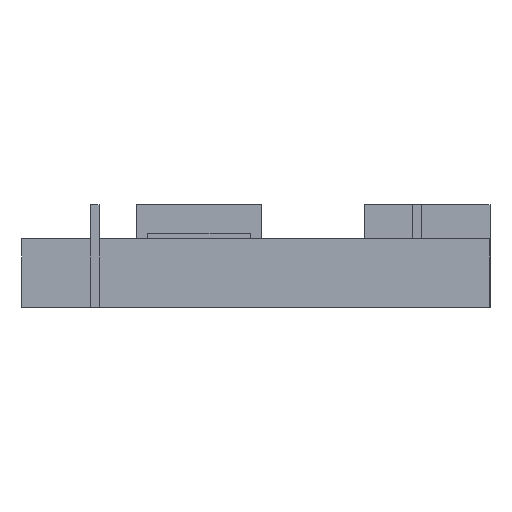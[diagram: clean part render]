
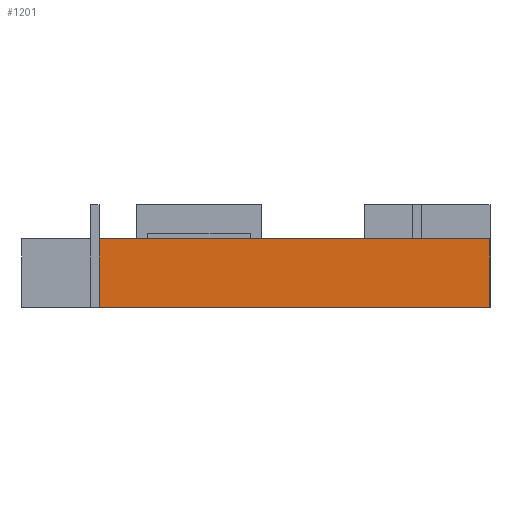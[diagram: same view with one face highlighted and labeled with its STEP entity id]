
A CAD part, left-side view. The second image highlights one B-rep face of the part: STEP entity #1201.
In plain terms, the highlighted planar face has unit normal (-1, 0, 0).
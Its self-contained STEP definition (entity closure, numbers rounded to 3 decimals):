
#74 = PLANE('',#75);
#75 = AXIS2_PLACEMENT_3D('',#76,#77,#78);
#76 = CARTESIAN_POINT('',(4.,82.,0.));
#77 = DIRECTION('',(0.,0.,1.));
#78 = DIRECTION('',(0.,-1.,0.));
#275 = VERTEX_POINT('',#276);
#276 = CARTESIAN_POINT('',(4.,68.5,0.));
#290 = PLANE('',#291);
#291 = AXIS2_PLACEMENT_3D('',#292,#293,#294);
#292 = CARTESIAN_POINT('',(0.,68.5,0.));
#293 = DIRECTION('',(0.,-1.,0.));
#294 = DIRECTION('',(1.,0.,0.));
#302 = EDGE_CURVE('',#275,#303,#305,.T.);
#303 = VERTEX_POINT('',#304);
#304 = CARTESIAN_POINT('',(4.,0.,0.));
#305 = SURFACE_CURVE('',#306,(#310,#317),.PCURVE_S1.);
#306 = LINE('',#307,#308);
#307 = CARTESIAN_POINT('',(4.,82.,0.));
#308 = VECTOR('',#309,1.);
#309 = DIRECTION('',(0.,-1.,0.));
#310 = PCURVE('',#74,#311);
#311 = DEFINITIONAL_REPRESENTATION('',(#312),#316);
#312 = LINE('',#313,#314);
#313 = CARTESIAN_POINT('',(0.,0.));
#314 = VECTOR('',#315,1.);
#315 = DIRECTION('',(1.,0.));
#316 = ( GEOMETRIC_REPRESENTATION_CONTEXT(2) 
PARAMETRIC_REPRESENTATION_CONTEXT() REPRESENTATION_CONTEXT('2D SPACE',''
  ) );
#317 = PCURVE('',#318,#323);
#318 = PLANE('',#319);
#319 = AXIS2_PLACEMENT_3D('',#320,#321,#322);
#320 = CARTESIAN_POINT('',(4.,82.,0.));
#321 = DIRECTION('',(1.,0.,0.));
#322 = DIRECTION('',(0.,-1.,0.));
#323 = DEFINITIONAL_REPRESENTATION('',(#324),#328);
#324 = LINE('',#325,#326);
#325 = CARTESIAN_POINT('',(0.,0.));
#326 = VECTOR('',#327,1.);
#327 = DIRECTION('',(1.,0.));
#328 = ( GEOMETRIC_REPRESENTATION_CONTEXT(2) 
PARAMETRIC_REPRESENTATION_CONTEXT() REPRESENTATION_CONTEXT('2D SPACE',''
  ) );
#346 = PLANE('',#347);
#347 = AXIS2_PLACEMENT_3D('',#348,#349,#350);
#348 = CARTESIAN_POINT('',(4.,0.,0.));
#349 = DIRECTION('',(0.,-1.,0.));
#350 = DIRECTION('',(1.,0.,0.));
#1003 = EDGE_CURVE('',#1004,#275,#1006,.T.);
#1004 = VERTEX_POINT('',#1005);
#1005 = CARTESIAN_POINT('',(4.,68.5,12.));
#1006 = SURFACE_CURVE('',#1007,(#1011,#1018),.PCURVE_S1.);
#1007 = LINE('',#1008,#1009);
#1008 = CARTESIAN_POINT('',(4.,68.5,0.));
#1009 = VECTOR('',#1010,1.);
#1010 = DIRECTION('',(0.,0.,-1.));
#1011 = PCURVE('',#290,#1012);
#1012 = DEFINITIONAL_REPRESENTATION('',(#1013),#1017);
#1013 = LINE('',#1014,#1015);
#1014 = CARTESIAN_POINT('',(4.,0.));
#1015 = VECTOR('',#1016,1.);
#1016 = DIRECTION('',(0.,-1.));
#1017 = ( GEOMETRIC_REPRESENTATION_CONTEXT(2) 
PARAMETRIC_REPRESENTATION_CONTEXT() REPRESENTATION_CONTEXT('2D SPACE',''
  ) );
#1018 = PCURVE('',#318,#1019);
#1019 = DEFINITIONAL_REPRESENTATION('',(#1020),#1024);
#1020 = LINE('',#1021,#1022);
#1021 = CARTESIAN_POINT('',(13.5,0.));
#1022 = VECTOR('',#1023,1.);
#1023 = DIRECTION('',(0.,1.));
#1024 = ( GEOMETRIC_REPRESENTATION_CONTEXT(2) 
PARAMETRIC_REPRESENTATION_CONTEXT() REPRESENTATION_CONTEXT('2D SPACE',''
  ) );
#1042 = PLANE('',#1043);
#1043 = AXIS2_PLACEMENT_3D('',#1044,#1045,#1046);
#1044 = CARTESIAN_POINT('',(4.,82.,12.));
#1045 = DIRECTION('',(0.,0.,1.));
#1046 = DIRECTION('',(0.,-1.,0.));
#1156 = EDGE_CURVE('',#303,#1157,#1159,.T.);
#1157 = VERTEX_POINT('',#1158);
#1158 = CARTESIAN_POINT('',(4.,0.,12.));
#1159 = SURFACE_CURVE('',#1160,(#1164,#1171),.PCURVE_S1.);
#1160 = LINE('',#1161,#1162);
#1161 = CARTESIAN_POINT('',(4.,0.,0.));
#1162 = VECTOR('',#1163,1.);
#1163 = DIRECTION('',(0.,0.,1.));
#1164 = PCURVE('',#346,#1165);
#1165 = DEFINITIONAL_REPRESENTATION('',(#1166),#1170);
#1166 = LINE('',#1167,#1168);
#1167 = CARTESIAN_POINT('',(0.,0.));
#1168 = VECTOR('',#1169,1.);
#1169 = DIRECTION('',(0.,1.));
#1170 = ( GEOMETRIC_REPRESENTATION_CONTEXT(2) 
PARAMETRIC_REPRESENTATION_CONTEXT() REPRESENTATION_CONTEXT('2D SPACE',''
  ) );
#1171 = PCURVE('',#318,#1172);
#1172 = DEFINITIONAL_REPRESENTATION('',(#1173),#1177);
#1173 = LINE('',#1174,#1175);
#1174 = CARTESIAN_POINT('',(82.,0.));
#1175 = VECTOR('',#1176,1.);
#1176 = DIRECTION('',(0.,-1.));
#1177 = ( GEOMETRIC_REPRESENTATION_CONTEXT(2) 
PARAMETRIC_REPRESENTATION_CONTEXT() REPRESENTATION_CONTEXT('2D SPACE',''
  ) );
#1201 = ADVANCED_FACE('',(#1202),#318,.F.);
#1202 = FACE_BOUND('',#1203,.F.);
#1203 = EDGE_LOOP('',(#1204,#1205,#1206,#1227));
#1204 = ORIENTED_EDGE('',*,*,#302,.F.);
#1205 = ORIENTED_EDGE('',*,*,#1003,.F.);
#1206 = ORIENTED_EDGE('',*,*,#1207,.T.);
#1207 = EDGE_CURVE('',#1004,#1157,#1208,.T.);
#1208 = SURFACE_CURVE('',#1209,(#1213,#1220),.PCURVE_S1.);
#1209 = LINE('',#1210,#1211);
#1210 = CARTESIAN_POINT('',(4.,82.,12.));
#1211 = VECTOR('',#1212,1.);
#1212 = DIRECTION('',(0.,-1.,0.));
#1213 = PCURVE('',#318,#1214);
#1214 = DEFINITIONAL_REPRESENTATION('',(#1215),#1219);
#1215 = LINE('',#1216,#1217);
#1216 = CARTESIAN_POINT('',(0.,-12.));
#1217 = VECTOR('',#1218,1.);
#1218 = DIRECTION('',(1.,0.));
#1219 = ( GEOMETRIC_REPRESENTATION_CONTEXT(2) 
PARAMETRIC_REPRESENTATION_CONTEXT() REPRESENTATION_CONTEXT('2D SPACE',''
  ) );
#1220 = PCURVE('',#1042,#1221);
#1221 = DEFINITIONAL_REPRESENTATION('',(#1222),#1226);
#1222 = LINE('',#1223,#1224);
#1223 = CARTESIAN_POINT('',(0.,0.));
#1224 = VECTOR('',#1225,1.);
#1225 = DIRECTION('',(1.,0.));
#1226 = ( GEOMETRIC_REPRESENTATION_CONTEXT(2) 
PARAMETRIC_REPRESENTATION_CONTEXT() REPRESENTATION_CONTEXT('2D SPACE',''
  ) );
#1227 = ORIENTED_EDGE('',*,*,#1156,.F.);
